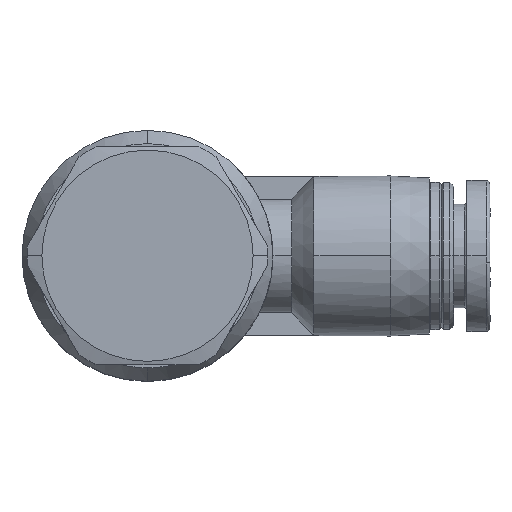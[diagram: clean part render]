
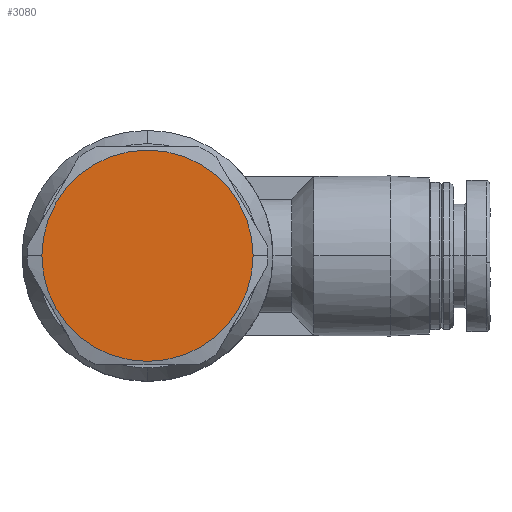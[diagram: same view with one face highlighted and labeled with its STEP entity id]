
A CAD part, top view. The second image highlights one B-rep face of the part: STEP entity #3080.
In plain terms, the highlighted planar face has unit normal (0, 0, 1).
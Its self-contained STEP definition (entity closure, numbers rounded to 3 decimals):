
#247 = CIRCLE ( 'NONE', #410, 8.25 ) ;
#410 = AXIS2_PLACEMENT_3D ( 'NONE', #1580, #1621, #1644 ) ;
#492 = AXIS2_PLACEMENT_3D ( 'NONE', #2782, #2262, #2152 ) ;
#842 = DIRECTION ( 'NONE',  ( -1., 0., 0. ) ) ;
#853 = DIRECTION ( 'NONE',  ( 0., 0., -1. ) ) ;
#861 = CARTESIAN_POINT ( 'NONE',  ( 0., 0., 31.5 ) ) ;
#1045 = CARTESIAN_POINT ( 'NONE',  ( 8.25, 0., 31.5 ) ) ;
#1255 = EDGE_LOOP ( 'NONE', ( #1833, #2129 ) ) ;
#1518 = AXIS2_PLACEMENT_3D ( 'NONE', #861, #853, #842 ) ;
#1580 = CARTESIAN_POINT ( 'NONE',  ( 0., 0., 31.5 ) ) ;
#1621 = DIRECTION ( 'NONE',  ( 0., 0., -1. ) ) ;
#1644 = DIRECTION ( 'NONE',  ( -1., 0., 0. ) ) ;
#1645 = EDGE_CURVE ( 'NONE', #2520, #2199, #247, .T. ) ;
#1833 = ORIENTED_EDGE ( 'NONE', *, *, #2604, .F. ) ;
#2129 = ORIENTED_EDGE ( 'NONE', *, *, #1645, .F. ) ;
#2152 = DIRECTION ( 'NONE',  ( 0., -1., 0. ) ) ;
#2199 = VERTEX_POINT ( 'NONE', #2990 ) ;
#2262 = DIRECTION ( 'NONE',  ( 0., 0., 1. ) ) ;
#2275 = FACE_OUTER_BOUND ( 'NONE', #1255, .T. ) ;
#2465 = CIRCLE ( 'NONE', #1518, 8.25 ) ;
#2520 = VERTEX_POINT ( 'NONE', #1045 ) ;
#2604 = EDGE_CURVE ( 'NONE', #2199, #2520, #2465, .T. ) ;
#2782 = CARTESIAN_POINT ( 'NONE',  ( 8.75, 8.75, 31.5 ) ) ;
#2869 = PLANE ( 'NONE',  #492 ) ;
#2990 = CARTESIAN_POINT ( 'NONE',  ( -8.25, 0., 31.5 ) ) ;
#3080 = ADVANCED_FACE ( '35', ( #2275 ), #2869, .T. ) ;
